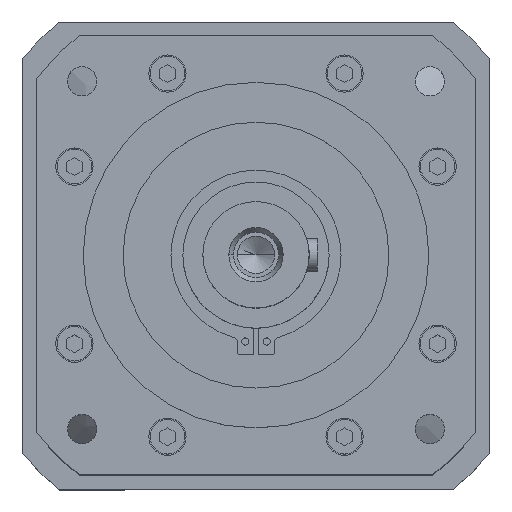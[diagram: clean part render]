
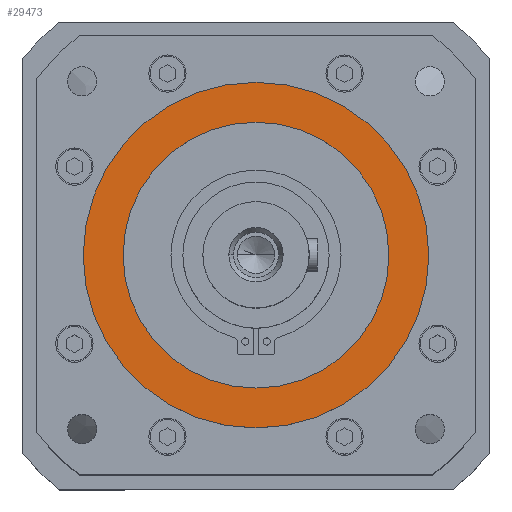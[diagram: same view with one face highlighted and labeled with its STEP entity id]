
A CAD part, top view. The second image highlights one B-rep face of the part: STEP entity #29473.
In plain terms, the highlighted planar face has unit normal (0, 0, 1).
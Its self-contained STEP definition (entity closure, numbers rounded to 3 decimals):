
#2531 = CARTESIAN_POINT ( 'NONE',  ( -65., 0., 0. ) ) ;
#2705 = CARTESIAN_POINT ( 'NONE',  ( 0., 0., 0. ) ) ;
#3229 = PLANE ( 'NONE',  #23750 ) ;
#4077 = EDGE_CURVE ( 'NONE', #28048, #22845, #11750, .T. ) ;
#5079 = FACE_OUTER_BOUND ( 'NONE', #15610, .T. ) ;
#5323 = VERTEX_POINT ( 'NONE', #5639 ) ;
#5445 = DIRECTION ( 'NONE',  ( 1., 0., 0. ) ) ;
#5639 = CARTESIAN_POINT ( 'NONE',  ( -50., 0., 0. ) ) ;
#7382 = ORIENTED_EDGE ( 'NONE', *, *, #32705, .F. ) ;
#8423 = AXIS2_PLACEMENT_3D ( 'NONE', #2705, #20944, #5445 ) ;
#8867 = AXIS2_PLACEMENT_3D ( 'NONE', #24452, #24376, #24343 ) ;
#9024 = DIRECTION ( 'NONE',  ( 0., 0., 1. ) ) ;
#9488 = CARTESIAN_POINT ( 'NONE',  ( 0., 0., 0. ) ) ;
#11750 = CIRCLE ( 'NONE', #8867, 65. ) ;
#12126 = DIRECTION ( 'NONE',  ( 1., 0., 0. ) ) ;
#13942 = DIRECTION ( 'NONE',  ( 0., 0., -1. ) ) ;
#15223 = CARTESIAN_POINT ( 'NONE',  ( 65., 0., 0. ) ) ;
#15610 = EDGE_LOOP ( 'NONE', ( #7382, #26016 ) ) ;
#15626 = VERTEX_POINT ( 'NONE', #22123 ) ;
#20508 = AXIS2_PLACEMENT_3D ( 'NONE', #24345, #9024, #26906 ) ;
#20944 = DIRECTION ( 'NONE',  ( 0., 0., -1. ) ) ;
#22049 = ORIENTED_EDGE ( 'NONE', *, *, #26809, .F. ) ;
#22123 = CARTESIAN_POINT ( 'NONE',  ( 50., 0., 0. ) ) ;
#22421 = ORIENTED_EDGE ( 'NONE', *, *, #31749, .F. ) ;
#22845 = VERTEX_POINT ( 'NONE', #15223 ) ;
#23030 = AXIS2_PLACEMENT_3D ( 'NONE', #9488, #27357, #12126 ) ;
#23750 = AXIS2_PLACEMENT_3D ( 'NONE', #29142, #13942, #31543 ) ;
#24343 = DIRECTION ( 'NONE',  ( 1., 0., 0. ) ) ;
#24345 = CARTESIAN_POINT ( 'NONE',  ( 0., 0., 0. ) ) ;
#24376 = DIRECTION ( 'NONE',  ( 0., 0., -1. ) ) ;
#24452 = CARTESIAN_POINT ( 'NONE',  ( 0., 0., 0. ) ) ;
#24813 = FACE_BOUND ( 'NONE', #31015, .T. ) ;
#25236 = CIRCLE ( 'NONE', #23030, 50. ) ;
#26016 = ORIENTED_EDGE ( 'NONE', *, *, #4077, .F. ) ;
#26100 = CIRCLE ( 'NONE', #20508, 50. ) ;
#26809 = EDGE_CURVE ( 'NONE', #5323, #15626, #25236, .T. ) ;
#26906 = DIRECTION ( 'NONE',  ( 1., 0., 0. ) ) ;
#27357 = DIRECTION ( 'NONE',  ( 0., 0., 1. ) ) ;
#28048 = VERTEX_POINT ( 'NONE', #2531 ) ;
#28343 = CIRCLE ( 'NONE', #8423, 65. ) ;
#29142 = CARTESIAN_POINT ( 'NONE',  ( 0., 50., 0. ) ) ;
#29473 = ADVANCED_FACE ( 'NONE', ( #5079, #24813 ), #3229, .F. ) ;
#31015 = EDGE_LOOP ( 'NONE', ( #22421, #22049 ) ) ;
#31543 = DIRECTION ( 'NONE',  ( -1., 0., 0. ) ) ;
#31749 = EDGE_CURVE ( 'NONE', #15626, #5323, #26100, .T. ) ;
#32705 = EDGE_CURVE ( 'NONE', #22845, #28048, #28343, .T. ) ;
